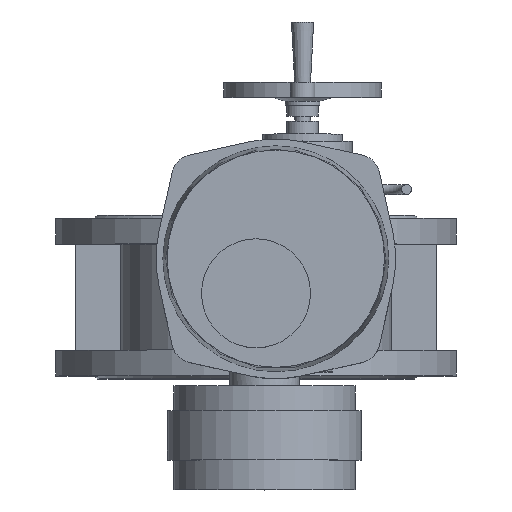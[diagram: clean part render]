
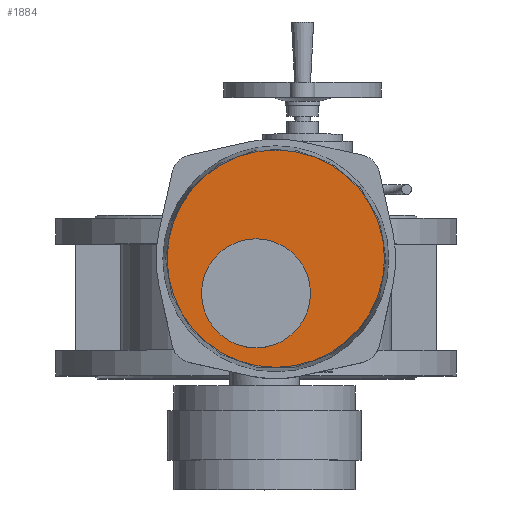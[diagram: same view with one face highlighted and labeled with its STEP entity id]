
A CAD part, top view. The second image highlights one B-rep face of the part: STEP entity #1884.
In plain terms, the highlighted planar face has unit normal (0, 0, 1).
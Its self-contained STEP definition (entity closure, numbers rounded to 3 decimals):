
#1884=ADVANCED_FACE('',(#3919,#3921),#3923,.T.);
#3919=FACE_BOUND('',#3920,.T.);
#3920=EDGE_LOOP('',(#5360));
#3921=FACE_BOUND('',#3922,.T.);
#3922=EDGE_LOOP('',(#5361));
#3923=PLANE('',#3924);
#3924=AXIS2_PLACEMENT_3D('',#3925,#3926,#3927);
#3925=CARTESIAN_POINT('',(20.,38.,564.));
#3926=DIRECTION('',(0.,0.,1.));
#3927=DIRECTION('',(-1.,0.,0.));
#5360=ORIENTED_EDGE('',*,*,#5962,.T.);
#5361=ORIENTED_EDGE('',*,*,#6194,.F.);
#5962=EDGE_CURVE('',#6845,#6845,#6846,.T.);
#6194=EDGE_CURVE('',#7193,#7193,#7194,.T.);
#6845=VERTEX_POINT('',#9598);
#6846=CIRCLE('',#9599,109.703);
#7193=VERTEX_POINT('',#10642);
#7194=CIRCLE('',#10643,55.);
#9598=CARTESIAN_POINT('',(-89.703,38.,564.));
#9599=AXIS2_PLACEMENT_3D('',#9600,#9601,#9602);
#9600=CARTESIAN_POINT('',(20.,38.,564.));
#9601=DIRECTION('',(0.,0.,1.));
#9602=DIRECTION('',(-1.,0.,0.));
#10642=CARTESIAN_POINT('',(-55.,3.,564.));
#10643=AXIS2_PLACEMENT_3D('',#10644,#10645,#10646);
#10644=CARTESIAN_POINT('',(0.,3.,564.));
#10645=DIRECTION('',(0.,0.,1.));
#10646=DIRECTION('',(-1.,0.,0.));
